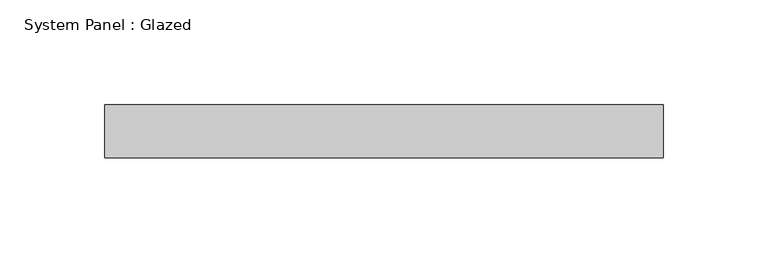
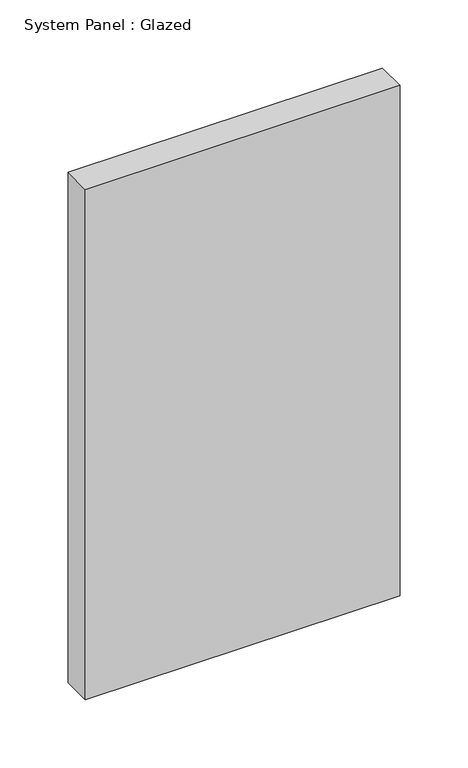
"""IFC4 building model written with IfcOpenShell, lengths in millimetres: plate geometry, System Panel : Glazed."""

from ifc_helpers import new_model, si_unit, origin, origin_with_axes, place, context, project, spatial, polyline, outline, extrude, source, transform, mapped, element, save


def system_panel_glazed_f37bcc86(model_context):
    return source(origin(), model_context, "Body", "SweptSolid", [
        extrude(outline(polyline([(133.3499998, -44.45), (-133.3499998, -44.45), (-133.3499998, -19.05), (133.3499998, -19.05), (133.3499998, -44.45)])), origin_with_axes(), (0.0, 0.0, 1.0), 457.2),
    ])


if __name__ == "__main__":
    model = new_model("IFC4")
    model_context = context("Model", 3, world=origin())
    ifc_project = project(units=[si_unit("LENGTHUNIT", "METRE", prefix="MILLI")], contexts=[model_context])
    site = spatial("IfcSite", under=ifc_project)
    building = spatial("IfcBuilding", under=site)
    placement = place(None, origin())
    system_panel_glazed_shape = system_panel_glazed_f37bcc86(model_context)
    element("IfcPlate", 1, ObjectType="System Panel : Glazed", at=placement, inside=building, context=model_context, shape_type="MappedRepresentation", body=[
        mapped(system_panel_glazed_shape, transform((0.0, 0.0, 0.0), x_axis=(1.0, 0.0, 0.0), y_axis=(0.0, 1.0, 0.0), z_axis=(0.0, 0.0, 1.0))),
    ])
    save(model, "model.ifc")
